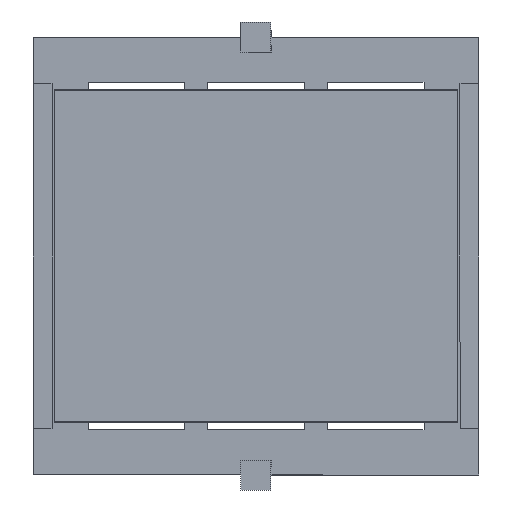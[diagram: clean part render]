
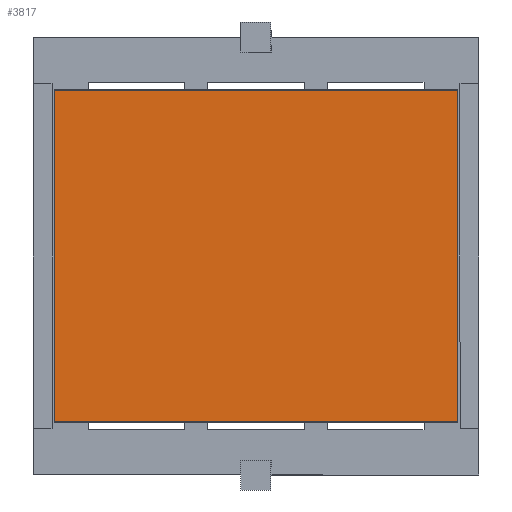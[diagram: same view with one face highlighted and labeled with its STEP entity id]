
A CAD part, front view. The second image highlights one B-rep face of the part: STEP entity #3817.
In plain terms, the highlighted planar face has unit normal (0, -1, 0).
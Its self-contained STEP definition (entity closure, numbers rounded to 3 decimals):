
#64 = CARTESIAN_POINT ( 'NONE',  ( -23.628, -8.053, 21.798 ) ) ;
#135 = VERTEX_POINT ( 'NONE', #3374 ) ;
#237 = CARTESIAN_POINT ( 'NONE',  ( -23.628, -8.053, 21.798 ) ) ;
#381 = CARTESIAN_POINT ( 'NONE',  ( 3.296, -8.053, -0.3 ) ) ;
#472 = LINE ( 'NONE', #64, #1151 ) ;
#483 = EDGE_CURVE ( 'NONE', #5495, #135, #472, .T. ) ;
#875 = ORIENTED_EDGE ( 'NONE', *, *, #3936, .F. ) ;
#1151 = VECTOR ( 'NONE', #3052, 1000. ) ;
#1185 = LINE ( 'NONE', #381, #4366 ) ;
#1336 = CARTESIAN_POINT ( 'NONE',  ( -23.628, -8.053, -0.3 ) ) ;
#1391 = LINE ( 'NONE', #1336, #1713 ) ;
#1482 = CARTESIAN_POINT ( 'NONE',  ( 3.296, -8.053, -0.3 ) ) ;
#1713 = VECTOR ( 'NONE', #4808, 1000. ) ;
#1865 = FACE_OUTER_BOUND ( 'NONE', #3489, .T. ) ;
#1936 = VECTOR ( 'NONE', #1958, 1000. ) ;
#1958 = DIRECTION ( 'NONE',  ( -1., 0., 0. ) ) ;
#2082 = ORIENTED_EDGE ( 'NONE', *, *, #4910, .F. ) ;
#2116 = VERTEX_POINT ( 'NONE', #1482 ) ;
#2221 = ORIENTED_EDGE ( 'NONE', *, *, #483, .F. ) ;
#2386 = LINE ( 'NONE', #4112, #1936 ) ;
#2661 = PLANE ( 'NONE',  #3719 ) ;
#3052 = DIRECTION ( 'NONE',  ( 1., 0., 0. ) ) ;
#3106 = DIRECTION ( 'NONE',  ( 0., 0., 1. ) ) ;
#3374 = CARTESIAN_POINT ( 'NONE',  ( 3.296, -8.053, 21.798 ) ) ;
#3474 = EDGE_CURVE ( 'NONE', #4533, #5495, #1391, .T. ) ;
#3489 = EDGE_LOOP ( 'NONE', ( #3702, #2082, #875, #2221 ) ) ;
#3702 = ORIENTED_EDGE ( 'NONE', *, *, #3474, .F. ) ;
#3719 = AXIS2_PLACEMENT_3D ( 'NONE', #5251, #5285, #3106 ) ;
#3817 = ADVANCED_FACE ( 'NONE', ( #1865 ), #2661, .F. ) ;
#3936 = EDGE_CURVE ( 'NONE', #135, #2116, #1185, .T. ) ;
#4112 = CARTESIAN_POINT ( 'NONE',  ( -23.628, -8.053, -0.3 ) ) ;
#4366 = VECTOR ( 'NONE', #5585, 1000. ) ;
#4533 = VERTEX_POINT ( 'NONE', #4914 ) ;
#4808 = DIRECTION ( 'NONE',  ( 0., 0., 1. ) ) ;
#4910 = EDGE_CURVE ( 'NONE', #2116, #4533, #2386, .T. ) ;
#4914 = CARTESIAN_POINT ( 'NONE',  ( -23.628, -8.053, -0.3 ) ) ;
#5251 = CARTESIAN_POINT ( 'NONE',  ( -23.628, -8.053, 21.798 ) ) ;
#5285 = DIRECTION ( 'NONE',  ( 0., 1., 0. ) ) ;
#5495 = VERTEX_POINT ( 'NONE', #237 ) ;
#5585 = DIRECTION ( 'NONE',  ( 0., 0., -1. ) ) ;
